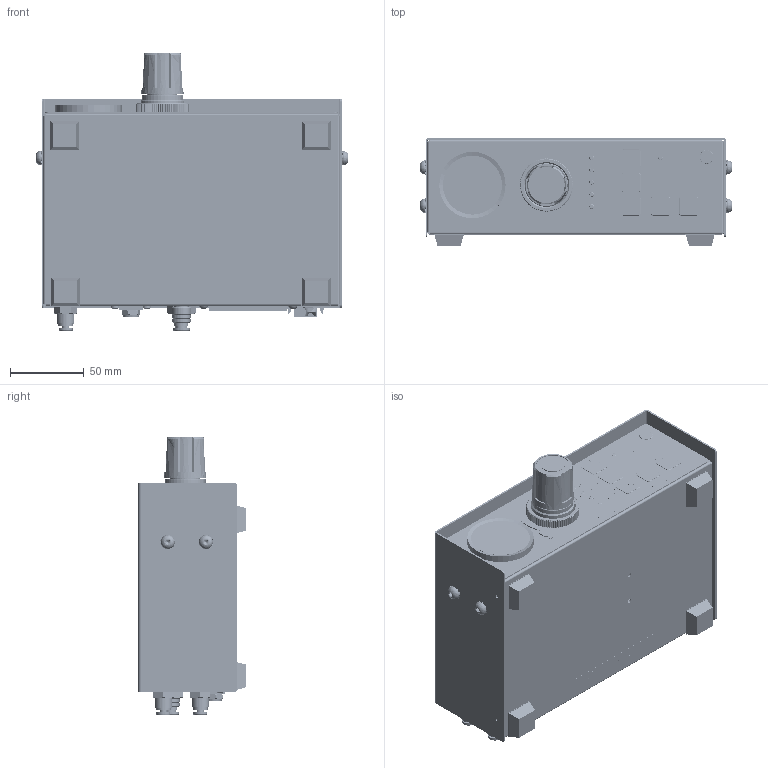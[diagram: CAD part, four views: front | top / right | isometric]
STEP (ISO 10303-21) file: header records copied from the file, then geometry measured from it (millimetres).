
FILE_DESCRIPTION (( 'STEP AP214' ), '1' );
FILE_NAME ('NORDSONEFD-7029739 CONTROLLER VALVEMATE 7160RA.STEP', '2019-03-01T14:01:54', ( '' ), ( '' ), 'SwSTEP 2.0', 'SolidWorks 2019', '' );
FILE_SCHEMA (( 'AUTOMOTIVE_DESIGN' ));
Length unit declared in the file: inch
Products named in the file (1): NORDSONEFD-7029739 CONTROLLER VALVEMATE 7160RA
Bounding box: 211.87 x 73.35 x 188.08 mm (x, y, z)
Volume: 286625.8 mm3; surface area: 306504.9 mm2
Topology: 48 solids, 48 shells, 12187 faces, 31783 edges, 20647 vertices
Faces by surface type: plane 6466, bspline 2879, cylinder 1716, cone 1017, torus 102, sphere 7
Entity records: 674457 total; most frequent: CARTESIAN_POINT 235036, ORIENTED_EDGE 63492, DIRECTION 47984, EDGE_CURVE 31746, VERTEX_POINT 20645, LINE 20182, VECTOR 20182, AXIS2_PLACEMENT_3D 13901
